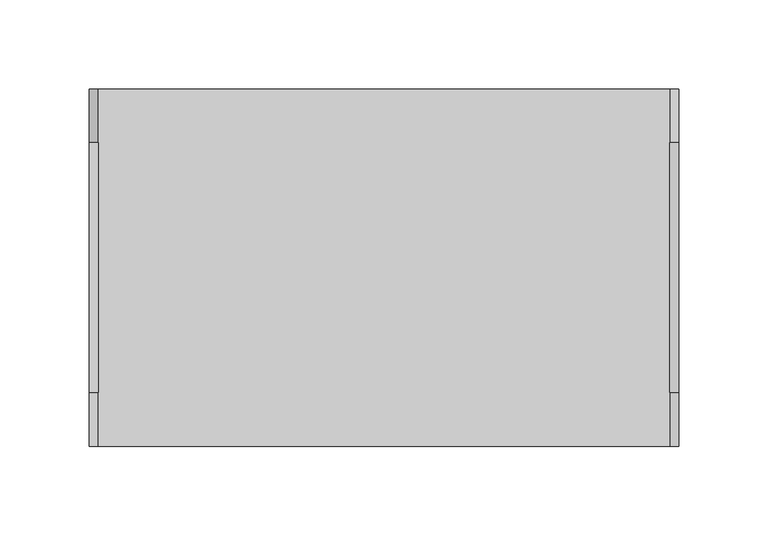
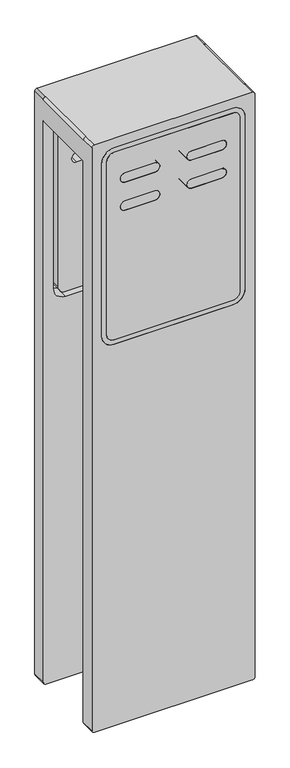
"""IFC4 building model written with IfcOpenShell, lengths in millimetres: proxy geometry, AI_Eqpmt elec_Borne véhicule électrique : Borne simple."""

from ifc_helpers import new_model, si_unit, point, frame, frame_2d, origin, place, context, project, spatial, polyline, circle_curve, trimmed, segment, composite_curve, outline, extrude, source, transform, mapped, element, save
from ifc_brep_helpers import plane_surface, cylinder_surface, revolved_surface, advanced_brep


def electrical_equipment_7e406d96(model_context):
    return source(origin(), model_context, "Body", "SolidModel", [
        advanced_brep(
        [(-145.0, -70.0151337, 1375.0), (-135.0, -70.0151337, 1375.0), (-135.0, -70.0151337, 1380.0), (-120.0, -70.0151337, 1395.0), (120.0, -70.0151337, 1395.0), (135.0, -70.0151337, 1380.0), (135.0, -70.0151337, 1375.0), (145.0, -70.0151337, 1375.0), (145.0, -70.0151337, 1380.0), (120.0, -70.0151337, 1405.0), (-120.0, -70.0151337, 1405.0), (-145.0, -70.0151337, 1380.0), (-135.0, 70.0151337, 1375.0), (-145.0, 70.0151337, 1375.0), (-145.0, 70.0151337, 1380.0), (-120.0, 70.0151337, 1405.0), (120.0, 70.0151337, 1405.0), (145.0, 70.0151337, 1380.0), (145.0, 70.0151337, 1375.0), (135.0, 70.0151337, 1375.0), (135.0, 70.0151337, 1380.0), (120.0, 70.0151337, 1395.0), (-120.0, 70.0151337, 1395.0), (-135.0, 70.0151337, 1380.0), (-160.0, -70.0151337, 1425.0), (-160.0, 70.0151337, 1425.0), (-165.0, 70.0151337, 1420.0), (-165.0, -70.0151337, 1420.0), (-165.0, 100.0, 1420.0), (-165.0, 100.0, 175.0), (-165.0, 70.0151337, 175.0), (-165.0, 70.0151337, 1375.0), (-165.0, -70.0151337, 1375.0), (-165.0, -70.0151337, 175.0), (-165.0, -100.0, 175.0), (-165.0, -100.0, 1420.0), (165.0, 70.0151337, 1375.0), (165.0, -70.0151337, 1375.0), (165.0, 70.0151337, 175.0), (165.0, 100.0, 175.0), (165.0, 100.0, 1420.0), (165.0, 70.0151337, 1420.0), (165.0, -70.0151337, 1420.0), (165.0, -100.0, 1420.0), (165.0, -100.0, 175.0), (165.0, -70.0151337, 175.0), (160.0, 70.0151337, 1425.0), (160.0, -70.0151337, 1425.0), (-160.0, -100.0, 1425.0), (160.0, -100.0, 1425.0), (160.0, 100.0, 1425.0), (-160.0, 100.0, 1425.0), (-160.0, -100.0, 170.0), (160.0, -100.0, 170.0), (120.0, -100.0, 1405.0), (145.0, -100.0, 1380.0), (145.0, -100.0, 1010.0), (120.0, -100.0, 985.0), (-120.0, -100.0, 985.0), (-145.0, -100.0, 1010.0), (-145.0, -100.0, 1380.0), (-120.0, -100.0, 1405.0), (-135.0, -100.0, 1380.0), (-135.0, -100.0, 1010.0), (-120.0, -100.0, 995.0), (120.0, -100.0, 995.0), (135.0, -100.0, 1010.0), (135.0, -100.0, 1380.0), (120.0, -100.0, 1395.0), (-120.0, -100.0, 1395.0), (37.5, -100.0, 1343.75), (97.5, -100.0, 1343.75), (97.5, -100.0, 1323.75), (37.5, -100.0, 1323.75), (-37.5, -100.0, 1343.75), (-37.5, -100.0, 1323.75), (-97.5, -100.0, 1323.75), (-97.5, -100.0, 1343.75), (37.5, -100.0, 1283.75), (97.5, -100.0, 1283.75), (97.5, -100.0, 1263.75), (37.5, -100.0, 1263.75), (-37.5, -100.0, 1283.75), (-37.5, -100.0, 1263.75), (-97.5, -100.0, 1263.75), (-97.5, -100.0, 1283.75), (160.0, -70.0151337, 170.0), (-160.0, -70.0151337, 170.0), (-145.0, -70.0151337, 1010.0), (-120.0, -70.0151337, 985.0), (120.0, -70.0151337, 985.0), (145.0, -70.0151337, 1010.0), (135.0, -70.0151337, 1010.0), (120.0, -70.0151337, 995.0), (-120.0, -70.0151337, 995.0), (-135.0, -70.0151337, 1010.0), (37.5, -70.0151337, 1343.75), (37.5, -70.0151337, 1323.75), (97.5, -70.0151337, 1323.75), (97.5, -70.0151337, 1343.75), (-37.5, -70.0151337, 1343.75), (-97.5, -70.0151337, 1343.75), (-97.5, -70.0151337, 1323.75), (-37.5, -70.0151337, 1323.75), (37.5, -70.0151337, 1283.75), (37.5, -70.0151337, 1263.75), (97.5, -70.0151337, 1263.75), (97.5, -70.0151337, 1283.75), (-37.5, -70.0151337, 1283.75), (-97.5, -70.0151337, 1283.75), (-97.5, -70.0151337, 1263.75), (-37.5, -70.0151337, 1263.75), (160.0, 100.0, 170.0), (-160.0, 100.0, 170.0), (120.0, 100.0, 1405.0), (-120.0, 100.0, 1405.0), (-145.0, 100.0, 1380.0), (-145.0, 100.0, 1010.0), (-120.0, 100.0, 985.0), (120.0, 100.0, 985.0), (145.0, 100.0, 1010.0), (145.0, 100.0, 1380.0), (-135.0, 100.0, 1380.0), (-120.0, 100.0, 1395.0), (120.0, 100.0, 1395.0), (135.0, 100.0, 1380.0), (135.0, 100.0, 1010.0), (120.0, 100.0, 995.0), (-120.0, 100.0, 995.0), (-135.0, 100.0, 1010.0), (-97.5, 100.0, 1323.75), (-37.5, 100.0, 1323.75), (-37.5, 100.0, 1343.75), (-97.5, 100.0, 1343.75), (-97.5, 100.0, 1263.75), (-37.5, 100.0, 1263.75), (-37.5, 100.0, 1283.75), (-97.5, 100.0, 1283.75), (37.5, 100.0, 1323.75), (97.5, 100.0, 1323.75), (97.5, 100.0, 1343.75), (37.5, 100.0, 1343.75), (37.5, 100.0, 1263.75), (97.5, 100.0, 1263.75), (97.5, 100.0, 1283.75), (37.5, 100.0, 1283.75), (-160.0, 70.0151337, 170.0), (160.0, 70.0151337, 170.0), (145.0, 70.0151337, 1010.0), (120.0, 70.0151337, 985.0), (-120.0, 70.0151337, 985.0), (-145.0, 70.0151337, 1010.0), (-135.0, 70.0151337, 1010.0), (-120.0, 70.0151337, 995.0), (120.0, 70.0151337, 995.0), (135.0, 70.0151337, 1010.0), (-97.5, 70.0151337, 1323.75), (-97.5, 70.0151337, 1343.75), (-37.5, 70.0151337, 1343.75), (-37.5, 70.0151337, 1323.75), (-97.5, 70.0151337, 1263.75), (-97.5, 70.0151337, 1283.75), (-37.5, 70.0151337, 1283.75), (-37.5, 70.0151337, 1263.75), (37.5, 70.0151337, 1323.75), (37.5, 70.0151337, 1343.75), (97.5, 70.0151337, 1343.75), (97.5, 70.0151337, 1323.75), (37.5, 70.0151337, 1263.75), (37.5, 70.0151337, 1283.75), (97.5, 70.0151337, 1283.75), (97.5, 70.0151337, 1263.75)],
        [
            (0, 1),
            (1, 2),
            (2, 3, circle_curve(frame((-120.0, -70.0151337, 1380.0), z_axis=(0.0, 1.0, 0.0), x_axis=(1.0, 0.0, 0.0)), 15.0)),
            (3, 4),
            (4, 5, circle_curve(frame((120.0, -70.0151337, 1380.0), z_axis=(0.0, 1.0, 0.0), x_axis=(1.0, 0.0, 0.0)), 15.0)),
            (5, 6),
            (6, 7),
            (7, 8),
            (8, 9, circle_curve(frame((120.0, -70.0151337, 1380.0), z_axis=(0.0, -1.0, 0.0), x_axis=(1.0, 0.0, 0.0)), 25.0)),
            (9, 10),
            (10, 11, circle_curve(frame((-120.0, -70.0151337, 1380.0), z_axis=(0.0, -1.0, 0.0), x_axis=(1.0, 0.0, 0.0)), 25.0)),
            (11, 0),
            (12, 13),
            (13, 14),
            (14, 15, circle_curve(frame((-120.0, 70.0151337, 1380.0), z_axis=(0.0, 1.0, 0.0), x_axis=(1.0, 0.0, 0.0)), 25.0)),
            (15, 16),
            (16, 17, circle_curve(frame((120.0, 70.0151337, 1380.0), z_axis=(0.0, 1.0, 0.0), x_axis=(1.0, 0.0, 0.0)), 25.0)),
            (17, 18),
            (18, 19),
            (19, 20),
            (20, 21, circle_curve(frame((120.0, 70.0151337, 1380.0), z_axis=(0.0, -1.0, 0.0), x_axis=(1.0, 0.0, 0.0)), 15.0)),
            (21, 22),
            (22, 23, circle_curve(frame((-120.0, 70.0151337, 1380.0), z_axis=(0.0, -1.0, 0.0), x_axis=(1.0, 0.0, 0.0)), 15.0)),
            (23, 12),
            (24, 25),
            (25, 26, circle_curve(frame((-160.0, 70.0151337, 1420.0), z_axis=(0.0, -1.0, 0.0), x_axis=(1.0, 0.0, 0.0)), 5.0)),
            (26, 27),
            (27, 24, circle_curve(frame((-160.0, -70.0151337, 1420.0), z_axis=(0.0, 1.0, 0.0), x_axis=(1.0, 0.0, 0.0)), 5.0)),
            (26, 28),
            (28, 29),
            (29, 30),
            (30, 31),
            (31, 32),
            (32, 33),
            (33, 34),
            (34, 35),
            (35, 27),
            (31, 13),
            (12, 19),
            (18, 36),
            (36, 37),
            (37, 7),
            (6, 1),
            (0, 32),
            (36, 38),
            (38, 39),
            (39, 40),
            (40, 41),
            (41, 42),
            (42, 43),
            (43, 44),
            (44, 45),
            (45, 37),
            (41, 46, circle_curve(frame((160.0, 70.0151337, 1420.0), z_axis=(0.0, -1.0, 0.0), x_axis=(1.0, 0.0, 0.0)), 5.0)),
            (46, 47),
            (47, 42, circle_curve(frame((160.0, -70.0151337, 1420.0), z_axis=(0.0, 1.0, 0.0), x_axis=(1.0, 0.0, 0.0)), 5.0)),
            (24, 48),
            (48, 49),
            (49, 47),
            (46, 50),
            (50, 51),
            (51, 25),
            (48, 35, circle_curve(frame((-160.0, -100.0, 1420.0), z_axis=(0.0, -1.0, 0.0), x_axis=(1.0, 0.0, 0.0)), 5.0)),
            (34, 52, circle_curve(frame((-160.0, -100.0, 175.0), z_axis=(0.0, -1.0, 0.0), x_axis=(1.0, 0.0, 0.0)), 5.0)),
            (52, 53),
            (53, 44, circle_curve(frame((160.0, -100.0, 175.0), z_axis=(0.0, -1.0, 0.0), x_axis=(1.0, 0.0, 0.0)), 5.0)),
            (43, 49, circle_curve(frame((160.0, -100.0, 1420.0), z_axis=(0.0, -1.0, 0.0), x_axis=(1.0, 0.0, 0.0)), 5.0)),
            (54, 55, circle_curve(frame((120.0, -100.0, 1380.0), z_axis=(0.0, 1.0, 0.0), x_axis=(1.0, 0.0, 0.0)), 25.0)),
            (55, 56),
            (56, 57, circle_curve(frame((120.0, -100.0, 1010.0), z_axis=(0.0, 1.0, 0.0), x_axis=(1.0, 0.0, 0.0)), 25.0)),
            (57, 58),
            (58, 59, circle_curve(frame((-120.0, -100.0, 1010.0), z_axis=(0.0, 1.0, 0.0), x_axis=(1.0, 0.0, 0.0)), 25.0)),
            (59, 60),
            (60, 61, circle_curve(frame((-120.0, -100.0, 1380.0), z_axis=(0.0, 1.0, 0.0), x_axis=(1.0, 0.0, 0.0)), 25.0)),
            (61, 54),
            (62, 63),
            (63, 64, circle_curve(frame((-120.0, -100.0, 1010.0), z_axis=(0.0, -1.0, 0.0), x_axis=(1.0, 0.0, 0.0)), 15.0)),
            (64, 65),
            (65, 66, circle_curve(frame((120.0, -100.0, 1010.0), z_axis=(0.0, -1.0, 0.0), x_axis=(1.0, 0.0, 0.0)), 15.0)),
            (66, 67),
            (67, 68, circle_curve(frame((120.0, -100.0, 1380.0), z_axis=(0.0, -1.0, 0.0), x_axis=(1.0, 0.0, 0.0)), 15.0)),
            (68, 69),
            (69, 62, circle_curve(frame((-120.0, -100.0, 1380.0), z_axis=(0.0, -1.0, 0.0), x_axis=(1.0, 0.0, 0.0)), 15.0)),
            (70, 71),
            (71, 72, circle_curve(frame((97.5, -100.0, 1333.75), z_axis=(0.0, 1.0, 0.0), x_axis=(1.0, 0.0, 0.0)), 10.0)),
            (72, 73),
            (73, 70, circle_curve(frame((37.5, -100.0, 1333.75), z_axis=(0.0, 1.0, 0.0), x_axis=(1.0, 0.0, 0.0)), 10.0)),
            (74, 75, circle_curve(frame((-37.5, -100.0, 1333.75), z_axis=(0.0, 1.0, 0.0), x_axis=(1.0, 0.0, 0.0)), 10.0)),
            (75, 76),
            (76, 77, circle_curve(frame((-97.5, -100.0, 1333.75), z_axis=(0.0, 1.0, 0.0), x_axis=(1.0, 0.0, 0.0)), 10.0)),
            (77, 74),
            (78, 79),
            (79, 80, circle_curve(frame((97.5, -100.0, 1273.75), z_axis=(0.0, 1.0, 0.0), x_axis=(1.0, 0.0, 0.0)), 10.0)),
            (80, 81),
            (81, 78, circle_curve(frame((37.5, -100.0, 1273.75), z_axis=(0.0, 1.0, 0.0), x_axis=(1.0, 0.0, 0.0)), 10.0)),
            (82, 83, circle_curve(frame((-37.5, -100.0, 1273.75), z_axis=(0.0, 1.0, 0.0), x_axis=(1.0, 0.0, 0.0)), 10.0)),
            (83, 84),
            (84, 85, circle_curve(frame((-97.5, -100.0, 1273.75), z_axis=(0.0, 1.0, 0.0), x_axis=(1.0, 0.0, 0.0)), 10.0)),
            (85, 82),
            (45, 86, circle_curve(frame((160.0, -70.0151337, 175.0), z_axis=(0.0, 1.0, 0.0), x_axis=(1.0, 0.0, 0.0)), 5.0)),
            (86, 87),
            (87, 33, circle_curve(frame((-160.0, -70.0151337, 175.0), z_axis=(0.0, 1.0, 0.0), x_axis=(1.0, 0.0, 0.0)), 5.0)),
            (0, 88),
            (88, 89, circle_curve(frame((-120.0, -70.0151337, 1010.0), z_axis=(0.0, -1.0, 0.0), x_axis=(1.0, 0.0, 0.0)), 25.0)),
            (89, 90),
            (90, 91, circle_curve(frame((120.0, -70.0151337, 1010.0), z_axis=(0.0, -1.0, 0.0), x_axis=(1.0, 0.0, 0.0)), 25.0)),
            (91, 7),
            (92, 93, circle_curve(frame((120.0, -70.0151337, 1010.0), z_axis=(0.0, 1.0, 0.0), x_axis=(1.0, 0.0, 0.0)), 15.0)),
            (93, 94),
            (94, 95, circle_curve(frame((-120.0, -70.0151337, 1010.0), z_axis=(0.0, 1.0, 0.0), x_axis=(1.0, 0.0, 0.0)), 15.0)),
            (95, 1),
            (6, 92),
            (96, 97, circle_curve(frame((37.5, -70.0151337, 1333.75), z_axis=(0.0, -1.0, 0.0), x_axis=(1.0, 0.0, 0.0)), 10.0)),
            (97, 98),
            (98, 99, circle_curve(frame((97.5, -70.0151337, 1333.75), z_axis=(0.0, -1.0, 0.0), x_axis=(1.0, 0.0, 0.0)), 10.0)),
            (99, 96),
            (100, 101),
            (101, 102, circle_curve(frame((-97.5, -70.0151337, 1333.75), z_axis=(0.0, -1.0, 0.0), x_axis=(1.0, 0.0, 0.0)), 10.0)),
            (102, 103),
            (103, 100, circle_curve(frame((-37.5, -70.0151337, 1333.75), z_axis=(0.0, -1.0, 0.0), x_axis=(1.0, 0.0, 0.0)), 10.0)),
            (104, 105, circle_curve(frame((37.5, -70.0151337, 1273.75), z_axis=(0.0, -1.0, 0.0), x_axis=(1.0, 0.0, 0.0)), 10.0)),
            (105, 106),
            (106, 107, circle_curve(frame((97.5, -70.0151337, 1273.75), z_axis=(0.0, -1.0, 0.0), x_axis=(1.0, 0.0, 0.0)), 10.0)),
            (107, 104),
            (108, 109),
            (109, 110, circle_curve(frame((-97.5, -70.0151337, 1273.75), z_axis=(0.0, -1.0, 0.0), x_axis=(1.0, 0.0, 0.0)), 10.0)),
            (110, 111),
            (111, 108, circle_curve(frame((-37.5, -70.0151337, 1273.75), z_axis=(0.0, -1.0, 0.0), x_axis=(1.0, 0.0, 0.0)), 10.0)),
            (87, 52),
            (86, 53),
            (54, 9),
            (8, 55),
            (91, 56),
            (90, 57),
            (89, 58),
            (88, 59),
            (11, 60),
            (10, 61),
            (62, 2),
            (95, 63),
            (94, 64),
            (93, 65),
            (92, 66),
            (5, 67),
            (4, 68),
            (3, 69),
            (50, 40, circle_curve(frame((160.0, 100.0, 1420.0), z_axis=(0.0, 1.0, 0.0), x_axis=(1.0, 0.0, 0.0)), 5.0)),
            (39, 112, circle_curve(frame((160.0, 100.0, 175.0), z_axis=(0.0, 1.0, 0.0), x_axis=(1.0, 0.0, 0.0)), 5.0)),
            (112, 113),
            (113, 29, circle_curve(frame((-160.0, 100.0, 175.0), z_axis=(0.0, 1.0, 0.0), x_axis=(1.0, 0.0, 0.0)), 5.0)),
            (28, 51, circle_curve(frame((-160.0, 100.0, 1420.0), z_axis=(0.0, 1.0, 0.0), x_axis=(1.0, 0.0, 0.0)), 5.0)),
            (114, 115),
            (115, 116, circle_curve(frame((-120.0, 100.0, 1380.0), z_axis=(0.0, -1.0, 0.0), x_axis=(1.0, 0.0, 0.0)), 25.0)),
            (116, 117),
            (117, 118, circle_curve(frame((-120.0, 100.0, 1010.0), z_axis=(0.0, -1.0, 0.0), x_axis=(1.0, 0.0, 0.0)), 25.0)),
            (118, 119),
            (119, 120, circle_curve(frame((120.0, 100.0, 1010.0), z_axis=(0.0, -1.0, 0.0), x_axis=(1.0, 0.0, 0.0)), 25.0)),
            (120, 121),
            (121, 114, circle_curve(frame((120.0, 100.0, 1380.0), z_axis=(0.0, -1.0, 0.0), x_axis=(1.0, 0.0, 0.0)), 25.0)),
            (122, 123, circle_curve(frame((-120.0, 100.0, 1380.0), z_axis=(0.0, 1.0, 0.0), x_axis=(1.0, 0.0, 0.0)), 15.0)),
            (123, 124),
            (124, 125, circle_curve(frame((120.0, 100.0, 1380.0), z_axis=(0.0, 1.0, 0.0), x_axis=(1.0, 0.0, 0.0)), 15.0)),
            (125, 126),
            (126, 127, circle_curve(frame((120.0, 100.0, 1010.0), z_axis=(0.0, 1.0, 0.0), x_axis=(1.0, 0.0, 0.0)), 15.0)),
            (127, 128),
            (128, 129, circle_curve(frame((-120.0, 100.0, 1010.0), z_axis=(0.0, 1.0, 0.0), x_axis=(1.0, 0.0, 0.0)), 15.0)),
            (129, 122),
            (130, 131),
            (131, 132, circle_curve(frame((-37.5, 100.0, 1333.75), z_axis=(0.0, -1.0, 0.0), x_axis=(1.0, 0.0, 0.0)), 10.0)),
            (132, 133),
            (133, 130, circle_curve(frame((-97.5, 100.0, 1333.75), z_axis=(0.0, -1.0, 0.0), x_axis=(1.0, 0.0, 0.0)), 10.0)),
            (134, 135),
            (135, 136, circle_curve(frame((-37.5, 100.0, 1273.75), z_axis=(0.0, -1.0, 0.0), x_axis=(1.0, 0.0, 0.0)), 10.0)),
            (136, 137),
            (137, 134, circle_curve(frame((-97.5, 100.0, 1273.75), z_axis=(0.0, -1.0, 0.0), x_axis=(1.0, 0.0, 0.0)), 10.0)),
            (138, 139),
            (139, 140, circle_curve(frame((97.5, 100.0, 1333.75), z_axis=(0.0, -1.0, 0.0), x_axis=(1.0, 0.0, 0.0)), 10.0)),
            (140, 141),
            (141, 138, circle_curve(frame((37.5, 100.0, 1333.75), z_axis=(0.0, -1.0, 0.0), x_axis=(1.0, 0.0, 0.0)), 10.0)),
            (142, 143),
            (143, 144, circle_curve(frame((97.5, 100.0, 1273.75), z_axis=(0.0, -1.0, 0.0), x_axis=(1.0, 0.0, 0.0)), 10.0)),
            (144, 145),
            (145, 142, circle_curve(frame((37.5, 100.0, 1273.75), z_axis=(0.0, -1.0, 0.0), x_axis=(1.0, 0.0, 0.0)), 10.0)),
            (30, 146, circle_curve(frame((-160.0, 70.0151337, 175.0), z_axis=(0.0, -1.0, 0.0), x_axis=(1.0, 0.0, 0.0)), 5.0)),
            (146, 147),
            (147, 38, circle_curve(frame((160.0, 70.0151337, 175.0), z_axis=(0.0, -1.0, 0.0), x_axis=(1.0, 0.0, 0.0)), 5.0)),
            (18, 148),
            (148, 149, circle_curve(frame((120.0, 70.0151337, 1010.0), z_axis=(0.0, 1.0, 0.0), x_axis=(1.0, 0.0, 0.0)), 25.0)),
            (149, 150),
            (150, 151, circle_curve(frame((-120.0, 70.0151337, 1010.0), z_axis=(0.0, 1.0, 0.0), x_axis=(1.0, 0.0, 0.0)), 25.0)),
            (151, 13),
            (152, 153, circle_curve(frame((-120.0, 70.0151337, 1010.0), z_axis=(0.0, -1.0, 0.0), x_axis=(1.0, 0.0, 0.0)), 15.0)),
            (153, 154),
            (154, 155, circle_curve(frame((120.0, 70.0151337, 1010.0), z_axis=(0.0, -1.0, 0.0), x_axis=(1.0, 0.0, 0.0)), 15.0)),
            (155, 19),
            (12, 152),
            (156, 157, circle_curve(frame((-97.5, 70.0151337, 1333.75), z_axis=(0.0, 1.0, 0.0), x_axis=(1.0, 0.0, 0.0)), 10.0)),
            (157, 158),
            (158, 159, circle_curve(frame((-37.5, 70.0151337, 1333.75), z_axis=(0.0, 1.0, 0.0), x_axis=(1.0, 0.0, 0.0)), 10.0)),
            (159, 156),
            (160, 161, circle_curve(frame((-97.5, 70.0151337, 1273.75), z_axis=(0.0, 1.0, 0.0), x_axis=(1.0, 0.0, 0.0)), 10.0)),
            (161, 162),
            (162, 163, circle_curve(frame((-37.5, 70.0151337, 1273.75), z_axis=(0.0, 1.0, 0.0), x_axis=(1.0, 0.0, 0.0)), 10.0)),
            (163, 160),
            (164, 165, circle_curve(frame((37.5, 70.0151337, 1333.75), z_axis=(0.0, 1.0, 0.0), x_axis=(1.0, 0.0, 0.0)), 10.0)),
            (165, 166),
            (166, 167, circle_curve(frame((97.5, 70.0151337, 1333.75), z_axis=(0.0, 1.0, 0.0), x_axis=(1.0, 0.0, 0.0)), 10.0)),
            (167, 164),
            (168, 169, circle_curve(frame((37.5, 70.0151337, 1273.75), z_axis=(0.0, 1.0, 0.0), x_axis=(1.0, 0.0, 0.0)), 10.0)),
            (169, 170),
            (170, 171, circle_curve(frame((97.5, 70.0151337, 1273.75), z_axis=(0.0, 1.0, 0.0), x_axis=(1.0, 0.0, 0.0)), 10.0)),
            (171, 168),
            (113, 146),
            (112, 147),
            (121, 17),
            (16, 114),
            (120, 148),
            (119, 149),
            (118, 150),
            (117, 151),
            (116, 14),
            (115, 15),
            (129, 152),
            (23, 122),
            (128, 153),
            (127, 154),
            (126, 155),
            (125, 20),
            (124, 21),
            (123, 22),
            (70, 96),
            (99, 71),
            (98, 72),
            (97, 73),
            (74, 100),
            (103, 75),
            (102, 76),
            (101, 77),
            (78, 104),
            (107, 79),
            (106, 80),
            (105, 81),
            (82, 108),
            (111, 83),
            (110, 84),
            (109, 85),
            (130, 156),
            (159, 131),
            (158, 132),
            (157, 133),
            (134, 160),
            (163, 135),
            (162, 136),
            (161, 137),
            (138, 164),
            (167, 139),
            (166, 140),
            (165, 141),
            (142, 168),
            (171, 143),
            (170, 144),
            (169, 145),
        ],
        [
            plane_surface(frame((-155.0, -70.0151337, 1420.0), z_axis=(0.0, -1.0, 0.0), x_axis=(0.0, 0.0, 1.0))),
            plane_surface(frame((-155.0, 70.0151337, 1420.0), z_axis=(0.0, 1.0, 0.0), x_axis=(0.0, 0.0, -1.0))),
            cylinder_surface(frame((-160.0, 70.0151337, 1420.0), z_axis=(0.0, -1.0, 0.0), x_axis=(1.0, 0.0, 0.0)), 5.0),
            plane_surface(frame((-165.0, -70.0151337, 1420.0), z_axis=(-1.0, 0.0, 0.0), x_axis=(0.0, 1.0, 0.0))),
            plane_surface(frame((-165.0, -70.0151337, 1375.0), z_axis=(0.0, 0.0, -1.0), x_axis=(0.0, 1.0, 0.0))),
            plane_surface(frame((165.0, -70.0151337, 1375.0), z_axis=(1.0, 0.0, 0.0), x_axis=(0.0, 1.0, 0.0))),
            cylinder_surface(frame((160.0, 70.0151337, 1420.0), z_axis=(0.0, -1.0, 0.0), x_axis=(1.0, 0.0, 0.0)), 5.0),
            plane_surface(frame((160.0, -70.0151337, 1425.0), z_axis=(0.0, 0.0, 1.0), x_axis=(0.0, 1.0, 0.0))),
            plane_surface(frame((-160.0, -100.0, 1425.0), z_axis=(0.0, -1.0, 0.0), x_axis=(-1.0, 0.0, 0.0))),
            plane_surface(frame((-160.0, -70.0151337, 1425.0), z_axis=(0.0, 1.0, 0.0), x_axis=(1.0, 0.0, 0.0))),
            cylinder_surface(frame((-160.0, -70.0151337, 1420.0), z_axis=(0.0, -1.0, 0.0), x_axis=(1.0, 0.0, 0.0)), 5.0),
            cylinder_surface(frame((-160.0, -70.0151337, 175.0), z_axis=(0.0, -1.0, 0.0), x_axis=(1.0, 0.0, 0.0)), 5.0),
            plane_surface(frame((-160.0, -100.0, 170.0), z_axis=(0.0, 0.0, -1.0), x_axis=(0.0, 1.0, 0.0))),
            cylinder_surface(frame((160.0, -70.0151337, 175.0), z_axis=(0.0, -1.0, 0.0), x_axis=(1.0, 0.0, 0.0)), 5.0),
            cylinder_surface(frame((160.0, -70.0151337, 1420.0), z_axis=(0.0, -1.0, 0.0), x_axis=(1.0, 0.0, 0.0)), 5.0),
            revolved_surface(polyline([(145.0, -70.0151337, 1380.0), (145.0, -100.0, 1380.0)]), (120.0, 0.0, 1380.0), (0.0, 1.0, 0.0)),
            plane_surface(frame((145.0, -100.0, 1380.0), z_axis=(-1.0, 0.0, 0.0), x_axis=(0.0, 1.0, 0.0))),
            revolved_surface(polyline([(145.0, -70.0151337, 1010.0), (145.0, -100.0, 1010.0)]), (120.0, 0.0, 1010.0), (0.0, 1.0, 0.0)),
            plane_surface(frame((120.0, -100.0, 985.0), z_axis=(0.0, 0.0, 1.0), x_axis=(0.0, 1.0, 0.0))),
            revolved_surface(polyline([(-95.0, -70.0151337, 1010.0), (-95.0, -100.0, 1010.0)]), (-120.0, 0.0, 1010.0), (0.0, 1.0, 0.0)),
            plane_surface(frame((-145.0, -100.0, 1010.0), z_axis=(1.0, 0.0, 0.0), x_axis=(0.0, 1.0, 0.0))),
            revolved_surface(polyline([(-95.0, -70.0151337, 1380.0), (-95.0, -100.0, 1380.0)]), (-120.0, 0.0, 1380.0), (0.0, 1.0, 0.0)),
            plane_surface(frame((-120.0, -100.0, 1405.0), z_axis=(0.0, 0.0, -1.0), x_axis=(0.0, 1.0, 0.0))),
            plane_surface(frame((-135.0, -100.0, 1380.0), z_axis=(-1.0, 0.0, 0.0), x_axis=(0.0, 1.0, 0.0))),
            cylinder_surface(frame((-120.0, 0.0, 1010.0), z_axis=(0.0, -1.0, 0.0), x_axis=(1.0, 0.0, 0.0)), 15.0),
            plane_surface(frame((-120.0, -100.0, 995.0), z_axis=(0.0, 0.0, -1.0), x_axis=(0.0, 1.0, 0.0))),
            cylinder_surface(frame((120.0, 0.0, 1010.0), z_axis=(0.0, -1.0, 0.0), x_axis=(1.0, 0.0, 0.0)), 15.0),
            plane_surface(frame((135.0, -100.0, 1010.0), z_axis=(1.0, 0.0, 0.0), x_axis=(0.0, 1.0, 0.0))),
            cylinder_surface(frame((120.0, 0.0, 1380.0), z_axis=(0.0, -1.0, 0.0), x_axis=(1.0, 0.0, 0.0)), 15.0),
            plane_surface(frame((120.0, -100.0, 1395.0), z_axis=(0.0, 0.0, 1.0), x_axis=(0.0, 1.0, 0.0))),
            cylinder_surface(frame((-120.0, 0.0, 1380.0), z_axis=(0.0, -1.0, 0.0), x_axis=(1.0, 0.0, 0.0)), 15.0),
            plane_surface(frame((165.0, 100.0, 1420.0), z_axis=(0.0, 1.0, 0.0), x_axis=(0.0, 0.0, -1.0))),
            plane_surface(frame((165.0, 70.0151337, 1420.0), z_axis=(0.0, -1.0, 0.0), x_axis=(0.0, 0.0, 1.0))),
            cylinder_surface(frame((-160.0, 70.0151337, 1420.0), z_axis=(0.0, 1.0, 0.0), x_axis=(1.0, 0.0, 0.0)), 5.0),
            cylinder_surface(frame((-160.0, 70.0151337, 175.0), z_axis=(0.0, 1.0, 0.0), x_axis=(1.0, 0.0, 0.0)), 5.0),
            plane_surface(frame((160.0, 100.0, 170.0), z_axis=(0.0, 0.0, -1.0), x_axis=(0.0, -1.0, 0.0))),
            cylinder_surface(frame((160.0, 70.0151337, 175.0), z_axis=(0.0, 1.0, 0.0), x_axis=(1.0, 0.0, 0.0)), 5.0),
            cylinder_surface(frame((160.0, 70.0151337, 1420.0), z_axis=(0.0, 1.0, 0.0), x_axis=(1.0, 0.0, 0.0)), 5.0),
            revolved_surface(polyline([(145.0, 70.0151337, 1380.0), (145.0, 100.0, 1380.0)]), (120.0, 0.0, 1380.0), (0.0, -1.0, 0.0)),
            plane_surface(frame((145.0, 100.0, 1010.0), z_axis=(-1.0, 0.0, 0.0), x_axis=(0.0, -1.0, 0.0))),
            revolved_surface(polyline([(145.0, 70.0151337, 1010.0), (145.0, 100.0, 1010.0)]), (120.0, 0.0, 1010.0), (0.0, -1.0, 0.0)),
            plane_surface(frame((-120.0, 100.0, 985.0), z_axis=(0.0, 0.0, 1.0), x_axis=(0.0, -1.0, 0.0))),
            revolved_surface(polyline([(-95.0, 70.0151337, 1010.0), (-95.0, 100.0, 1010.0)]), (-120.0, 0.0, 1010.0), (0.0, -1.0, 0.0)),
            plane_surface(frame((-145.0, 100.0, 1380.0), z_axis=(1.0, 0.0, 0.0), x_axis=(0.0, -1.0, 0.0))),
            revolved_surface(polyline([(-95.0, 70.0151337, 1380.0), (-95.0, 100.0, 1380.0)]), (-120.0, 0.0, 1380.0), (0.0, -1.0, 0.0)),
            plane_surface(frame((120.0, 100.0, 1405.0), z_axis=(0.0, 0.0, -1.0), x_axis=(0.0, -1.0, 0.0))),
            plane_surface(frame((-135.0, 100.0, 1010.0), z_axis=(-1.0, 0.0, 0.0), x_axis=(0.0, -1.0, 0.0))),
            cylinder_surface(frame((-120.0, 0.0, 1010.0), z_axis=(0.0, 1.0, 0.0), x_axis=(1.0, 0.0, 0.0)), 15.0),
            plane_surface(frame((120.0, 100.0, 995.0), z_axis=(0.0, 0.0, -1.0), x_axis=(0.0, -1.0, 0.0))),
            cylinder_surface(frame((120.0, 0.0, 1010.0), z_axis=(0.0, 1.0, 0.0), x_axis=(1.0, 0.0, 0.0)), 15.0),
            plane_surface(frame((135.0, 100.0, 1380.0), z_axis=(1.0, 0.0, 0.0), x_axis=(0.0, -1.0, 0.0))),
            cylinder_surface(frame((120.0, 0.0, 1380.0), z_axis=(0.0, 1.0, 0.0), x_axis=(1.0, 0.0, 0.0)), 15.0),
            plane_surface(frame((-120.0, 100.0, 1395.0), z_axis=(0.0, 0.0, 1.0), x_axis=(0.0, -1.0, 0.0))),
            cylinder_surface(frame((-120.0, 0.0, 1380.0), z_axis=(0.0, 1.0, 0.0), x_axis=(1.0, 0.0, 0.0)), 15.0),
            plane_surface(frame((37.5, -100.0, 1343.75), z_axis=(0.0, 0.0, -1.0), x_axis=(0.0, 1.0, 0.0))),
            revolved_surface(polyline([(107.5, -70.0151337, 1333.75), (107.5, -100.0, 1333.75)]), (97.5, 0.0, 1333.75), (0.0, 1.0, 0.0)),
            plane_surface(frame((97.5, -100.0, 1323.75), z_axis=(0.0, 0.0, 1.0), x_axis=(0.0, 1.0, 0.0))),
            revolved_surface(polyline([(47.5, -70.0151337, 1333.75), (47.5, -100.0, 1333.75)]), (37.5, 0.0, 1333.75), (0.0, 1.0, 0.0)),
            revolved_surface(polyline([(-27.5, -70.0151337, 1333.75), (-27.5, -100.0, 1333.75)]), (-37.5, 0.0, 1333.75), (0.0, 1.0, 0.0)),
            plane_surface(frame((-37.5, -100.0, 1323.75), z_axis=(0.0, 0.0, 1.0), x_axis=(0.0, 1.0, 0.0))),
            revolved_surface(polyline([(-87.5, -70.0151337, 1333.75), (-87.5, -100.0, 1333.75)]), (-97.5, 0.0, 1333.75), (0.0, 1.0, 0.0)),
            plane_surface(frame((-97.5, -100.0, 1343.75), z_axis=(0.0, 0.0, -1.0), x_axis=(0.0, 1.0, 0.0))),
            plane_surface(frame((37.5, -100.0, 1283.75), z_axis=(0.0, 0.0, -1.0), x_axis=(0.0, 1.0, 0.0))),
            revolved_surface(polyline([(107.5, -70.0151337, 1273.75), (107.5, -100.0, 1273.75)]), (97.5, 0.0, 1273.75), (0.0, 1.0, 0.0)),
            plane_surface(frame((97.5, -100.0, 1263.75), z_axis=(0.0, 0.0, 1.0), x_axis=(0.0, 1.0, 0.0))),
            revolved_surface(polyline([(47.5, -70.0151337, 1273.75), (47.5, -100.0, 1273.75)]), (37.5, 0.0, 1273.75), (0.0, 1.0, 0.0)),
            revolved_surface(polyline([(-27.5, -70.0151337, 1273.75), (-27.5, -100.0, 1273.75)]), (-37.5, 0.0, 1273.75), (0.0, 1.0, 0.0)),
            plane_surface(frame((-37.5, -100.0, 1263.75), z_axis=(0.0, 0.0, 1.0), x_axis=(0.0, 1.0, 0.0))),
            revolved_surface(polyline([(-87.5, -70.0151337, 1273.75), (-87.5, -100.0, 1273.75)]), (-97.5, 0.0, 1273.75), (0.0, 1.0, 0.0)),
            plane_surface(frame((-97.5, -100.0, 1283.75), z_axis=(0.0, 0.0, -1.0), x_axis=(0.0, 1.0, 0.0))),
            plane_surface(frame((-97.5, 100.0, 1323.75), z_axis=(0.0, 0.0, 1.0), x_axis=(0.0, -1.0, 0.0))),
            revolved_surface(polyline([(-27.5, 70.0151337, 1333.75), (-27.5, 100.0, 1333.75)]), (-37.5, 0.0, 1333.75), (0.0, -1.0, 0.0)),
            plane_surface(frame((-37.5, 100.0, 1343.75), z_axis=(0.0, 0.0, -1.0), x_axis=(0.0, -1.0, 0.0))),
            revolved_surface(polyline([(-87.5, 70.0151337, 1333.75), (-87.5, 100.0, 1333.75)]), (-97.5, 0.0, 1333.75), (0.0, -1.0, 0.0)),
            plane_surface(frame((-97.5, 100.0, 1263.75), z_axis=(0.0, 0.0, 1.0), x_axis=(0.0, -1.0, 0.0))),
            revolved_surface(polyline([(-27.5, 70.0151337, 1273.75), (-27.5, 100.0, 1273.75)]), (-37.5, 0.0, 1273.75), (0.0, -1.0, 0.0)),
            plane_surface(frame((-37.5, 100.0, 1283.75), z_axis=(0.0, 0.0, -1.0), x_axis=(0.0, -1.0, 0.0))),
            revolved_surface(polyline([(-87.5, 70.0151337, 1273.75), (-87.5, 100.0, 1273.75)]), (-97.5, 0.0, 1273.75), (0.0, -1.0, 0.0)),
            plane_surface(frame((37.5, 100.0, 1323.75), z_axis=(0.0, 0.0, 1.0), x_axis=(0.0, -1.0, 0.0))),
            revolved_surface(polyline([(107.5, 70.0151337, 1333.75), (107.5, 100.0, 1333.75)]), (97.5, 0.0, 1333.75), (0.0, -1.0, 0.0)),
            plane_surface(frame((97.5, 100.0, 1343.75), z_axis=(0.0, 0.0, -1.0), x_axis=(0.0, -1.0, 0.0))),
            revolved_surface(polyline([(47.5, 70.0151337, 1333.75), (47.5, 100.0, 1333.75)]), (37.5, 0.0, 1333.75), (0.0, -1.0, 0.0)),
            plane_surface(frame((37.5, 100.0, 1263.75), z_axis=(0.0, 0.0, 1.0), x_axis=(0.0, -1.0, 0.0))),
            revolved_surface(polyline([(107.5, 70.0151337, 1273.75), (107.5, 100.0, 1273.75)]), (97.5, 0.0, 1273.75), (0.0, -1.0, 0.0)),
            plane_surface(frame((97.5, 100.0, 1283.75), z_axis=(0.0, 0.0, -1.0), x_axis=(0.0, -1.0, 0.0))),
            revolved_surface(polyline([(47.5, 70.0151337, 1273.75), (47.5, 100.0, 1273.75)]), (37.5, 0.0, 1273.75), (0.0, -1.0, 0.0)),
        ],
        [
            (0, [[1, 2, 3, 4, 5, 6, 7, 8, 9, 10, 11, 12]]),
            (1, [[13, 14, 15, 16, 17, 18, 19, 20, 21, 22, 23, 24]]),
            (2, [[25, 26, 27, 28]]),
            (3, [[-27, 29, 30, 31, 32, 33, 34, 35, 36, 37]]),
            (4, [[-33, 38, -13, 39, -19, 40, 41, 42, -7, 43, -1, 44]]),
            (5, [[-41, 45, 46, 47, 48, 49, 50, 51, 52, 53]]),
            (6, [[-49, 54, 55, 56]]),
            (7, [[-25, 57, 58, 59, -55, 60, 61, 62]]),
            (8, [[-58, 63, -36, 64, 65, 66, -51, 67], [68, 69, 70, 71, 72, 73, 74, 75]]),
            (8, [[76, 77, 78, 79, 80, 81, 82, 83], [84, 85, 86, 87], [88, 89, 90, 91], [92, 93, 94, 95], [96, 97, 98, 99]]),
            (9, [[100, 101, 102, -34, -44, 103, 104, 105, 106, 107, -42, -53]]),
            (9, [[108, 109, 110, 111, -43, 112], [113, 114, 115, 116], [117, 118, 119, 120], [121, 122, 123, 124], [125, 126, 127, 128]]),
            (10, [[-63, -57, -28, -37]]),
            (11, [[-64, -35, -102, 129]]),
            (12, [[-65, -129, -101, 130]]),
            (13, [[-66, -130, -100, -52]]),
            (14, [[-67, -50, -56, -59]]),
            (15, [[-68, 131, -9, 132]]),
            (16, [[-69, -132, -8, -107, 133]]),
            (17, [[-70, -133, -106, 134]]),
            (18, [[-71, -134, -105, 135]]),
            (19, [[-72, -135, -104, 136]]),
            (20, [[-73, -136, -103, -12, 137]]),
            (21, [[-74, -137, -11, 138]]),
            (22, [[-75, -138, -10, -131]]),
            (23, [[-76, 139, -2, -111, 140]]),
            (24, [[-77, -140, -110, 141]]),
            (25, [[-78, -141, -109, 142]]),
            (26, [[-79, -142, -108, 143]]),
            (27, [[-80, -143, -112, -6, 144]]),
            (28, [[-81, -144, -5, 145]]),
            (29, [[-82, -145, -4, 146]]),
            (30, [[-83, -146, -3, -139]]),
            (31, [[147, -47, 148, 149, 150, -30, 151, -61], [152, 153, 154, 155, 156, 157, 158, 159]]),
            (31, [[160, 161, 162, 163, 164, 165, 166, 167], [168, 169, 170, 171], [172, 173, 174, 175], [176, 177, 178, 179], [180, 181, 182, 183]]),
            (32, [[184, 185, 186, -45, -40, 187, 188, 189, 190, 191, -38, -32]]),
            (32, [[192, 193, 194, 195, -39, 196], [197, 198, 199, 200], [201, 202, 203, 204], [205, 206, 207, 208], [209, 210, 211, 212]]),
            (33, [[-151, -29, -26, -62]]),
            (34, [[-150, 213, -184, -31]]),
            (35, [[-149, 214, -185, -213]]),
            (36, [[-148, -46, -186, -214]]),
            (37, [[-147, -60, -54, -48]]),
            (38, [[-159, 215, -17, 216]]),
            (39, [[-158, 217, -187, -18, -215]]),
            (40, [[-157, 218, -188, -217]]),
            (41, [[-156, 219, -189, -218]]),
            (42, [[-155, 220, -190, -219]]),
            (43, [[-154, 221, -14, -191, -220]]),
            (44, [[-153, 222, -15, -221]]),
            (45, [[-152, -216, -16, -222]]),
            (46, [[-167, 223, -196, -24, 224]]),
            (47, [[-166, 225, -192, -223]]),
            (48, [[-165, 226, -193, -225]]),
            (49, [[-164, 227, -194, -226]]),
            (50, [[-163, 228, -20, -195, -227]]),
            (51, [[-162, 229, -21, -228]]),
            (52, [[-161, 230, -22, -229]]),
            (53, [[-160, -224, -23, -230]]),
            (54, [[-84, 231, -116, 232]]),
            (55, [[-85, -232, -115, 233]]),
            (56, [[-86, -233, -114, 234]]),
            (57, [[-87, -234, -113, -231]]),
            (58, [[-88, 235, -120, 236]]),
            (59, [[-89, -236, -119, 237]]),
            (60, [[-90, -237, -118, 238]]),
            (61, [[-91, -238, -117, -235]]),
            (62, [[-92, 239, -124, 240]]),
            (63, [[-93, -240, -123, 241]]),
            (64, [[-94, -241, -122, 242]]),
            (65, [[-95, -242, -121, -239]]),
            (66, [[-96, 243, -128, 244]]),
            (67, [[-97, -244, -127, 245]]),
            (68, [[-98, -245, -126, 246]]),
            (69, [[-99, -246, -125, -243]]),
            (70, [[-168, 247, -200, 248]]),
            (71, [[-169, -248, -199, 249]]),
            (72, [[-170, -249, -198, 250]]),
            (73, [[-171, -250, -197, -247]]),
            (74, [[-172, 251, -204, 252]]),
            (75, [[-173, -252, -203, 253]]),
            (76, [[-174, -253, -202, 254]]),
            (77, [[-175, -254, -201, -251]]),
            (78, [[-176, 255, -208, 256]]),
            (79, [[-177, -256, -207, 257]]),
            (80, [[-178, -257, -206, 258]]),
            (81, [[-179, -258, -205, -255]]),
            (82, [[-180, 259, -212, 260]]),
            (83, [[-181, -260, -211, 261]]),
            (84, [[-182, -261, -210, 262]]),
            (85, [[-183, -262, -209, -259]]),
        ],
    ),
        extrude(outline(composite_curve([segment(trimmed(circle_curve(frame_2d((1333.75, -97.5)), 10.0), [point((1343.75, -97.5))], [point((1323.75, -97.5))], False, "CARTESIAN"), True, "CONTINUOUS"), segment(polyline([(1323.75, -97.5), (1323.75, -37.5)]), True, "CONTINUOUS"), segment(trimmed(circle_curve(frame_2d((1333.75, -37.5)), 10.0), [point((1323.75, -37.5))], [point((1343.75, -37.5))], False, "CARTESIAN"), True, "CONTINUOUS"), segment(polyline([(1343.75, -37.5), (1343.75, -97.5)]), True, "CONTINUOUS")], self_intersect=False)), frame((0.0, -100.0, 0.0), z_axis=(0.0, 1.0, 0.0), x_axis=(0.0, 0.0, 1.0)), (0.0, 0.0, 1.0), 29.9848663),
        extrude(outline(composite_curve([segment(trimmed(circle_curve(frame_2d((1273.75, -97.5)), 10.0), [point((1283.75, -97.5))], [point((1263.75, -97.5))], False, "CARTESIAN"), True, "CONTINUOUS"), segment(polyline([(1263.75, -97.5), (1263.75, -37.5)]), True, "CONTINUOUS"), segment(trimmed(circle_curve(frame_2d((1273.75, -37.5)), 10.0), [point((1263.75, -37.5))], [point((1283.75, -37.5))], False, "CARTESIAN"), True, "CONTINUOUS"), segment(polyline([(1283.75, -37.5), (1283.75, -97.5)]), True, "CONTINUOUS")], self_intersect=False)), frame((0.0, -100.0, 0.0), z_axis=(0.0, 1.0, 0.0), x_axis=(0.0, 0.0, 1.0)), (0.0, 0.0, 1.0), 29.9848663),
        extrude(outline(composite_curve([segment(trimmed(circle_curve(frame_2d((1273.75, 37.5)), 10.0), [point((1283.75, 37.5))], [point((1263.75, 37.5))], False, "CARTESIAN"), True, "CONTINUOUS"), segment(polyline([(1263.75, 37.5), (1263.75, 97.5)]), True, "CONTINUOUS"), segment(trimmed(circle_curve(frame_2d((1273.75, 97.5)), 10.0), [point((1263.75, 97.5))], [point((1283.75, 97.5))], False, "CARTESIAN"), True, "CONTINUOUS"), segment(polyline([(1283.75, 97.5), (1283.75, 37.5)]), True, "CONTINUOUS")], self_intersect=False)), frame((0.0, -100.0, 0.0), z_axis=(0.0, 1.0, 0.0), x_axis=(0.0, 0.0, 1.0)), (0.0, 0.0, 1.0), 29.9848663),
        extrude(outline(composite_curve([segment(trimmed(circle_curve(frame_2d((1333.75, 37.5)), 10.0), [point((1343.75, 37.5))], [point((1323.75, 37.5))], False, "CARTESIAN"), True, "CONTINUOUS"), segment(polyline([(1323.75, 37.5), (1323.75, 97.5)]), True, "CONTINUOUS"), segment(trimmed(circle_curve(frame_2d((1333.75, 97.5)), 10.0), [point((1323.75, 97.5))], [point((1343.75, 97.5))], False, "CARTESIAN"), True, "CONTINUOUS"), segment(polyline([(1343.75, 97.5), (1343.75, 37.5)]), True, "CONTINUOUS")], self_intersect=False)), frame((0.0, -100.0, 0.0), z_axis=(0.0, 1.0, 0.0), x_axis=(0.0, 0.0, 1.0)), (0.0, 0.0, 1.0), 29.9848663),
        extrude(outline(composite_curve([segment(polyline([(1405.0, 120.0), (1405.0, -120.0)]), True, "CONTINUOUS"), segment(trimmed(circle_curve(frame_2d((1380.0, -120.0)), 25.0), [point((1405.0, -120.0))], [point((1380.0, -145.0))], False, "CARTESIAN"), True, "CONTINUOUS"), segment(polyline([(1380.0, -145.0), (1010.0, -145.0)]), True, "CONTINUOUS"), segment(trimmed(circle_curve(frame_2d((1010.0, -120.0)), 25.0), [point((1010.0, -145.0))], [point((985.0, -120.0))], False, "CARTESIAN"), True, "CONTINUOUS"), segment(polyline([(985.0, -120.0), (985.0, 120.0)]), True, "CONTINUOUS"), segment(trimmed(circle_curve(frame_2d((1010.0, 120.0)), 25.0), [point((985.0, 120.0))], [point((1010.0, 145.0))], False, "CARTESIAN"), True, "CONTINUOUS"), segment(polyline([(1010.0, 145.0), (1380.0, 145.0)]), True, "CONTINUOUS"), segment(trimmed(circle_curve(frame_2d((1380.0, 120.0)), 25.0), [point((1380.0, 145.0))], [point((1405.0, 120.0))], False, "CARTESIAN"), True, "CONTINUOUS")], self_intersect=False), holes=[composite_curve([segment(trimmed(circle_curve(frame_2d((1380.0, -120.0)), 15.0), [point((1380.0, -135.0))], [point((1395.0, -120.0))], True, "CARTESIAN"), True, "CONTINUOUS"), segment(polyline([(1395.0, -120.0), (1395.0, 120.0)]), True, "CONTINUOUS"), segment(trimmed(circle_curve(frame_2d((1380.0, 120.0)), 15.0), [point((1395.0, 120.0))], [point((1380.0, 135.0))], True, "CARTESIAN"), True, "CONTINUOUS"), segment(polyline([(1380.0, 135.0), (1010.0, 135.0)]), True, "CONTINUOUS"), segment(trimmed(circle_curve(frame_2d((1010.0, 120.0)), 15.0), [point((1010.0, 135.0))], [point((995.0, 120.0))], True, "CARTESIAN"), True, "CONTINUOUS"), segment(polyline([(995.0, 120.0), (995.0, -120.0)]), True, "CONTINUOUS"), segment(trimmed(circle_curve(frame_2d((1010.0, -120.0)), 15.0), [point((995.0, -120.0))], [point((1010.0, -135.0))], True, "CARTESIAN"), True, "CONTINUOUS"), segment(polyline([(1010.0, -135.0), (1380.0, -135.0)]), True, "CONTINUOUS")], self_intersect=False)]), frame((0.0, -100.0, 0.0), z_axis=(0.0, 1.0, 0.0), x_axis=(0.0, 0.0, 1.0)), (0.0, 0.0, 1.0), 29.9848663),
    ])


if __name__ == "__main__":
    model = new_model("IFC4")
    model_context = context("Model", 3, world=origin())
    ifc_project = project(units=[si_unit("LENGTHUNIT", "METRE", prefix="MILLI")], contexts=[model_context])
    site = spatial("IfcSite", under=ifc_project)
    building = spatial("IfcBuilding", under=site)
    placement = place(None, origin())
    electrical_equipment_shape = electrical_equipment_7e406d96(model_context)
    element("IfcBuildingElementProxy", 1, Name="AI_Eqpmt elec_Borne véhicule électrique : Borne simple", ObjectType="AI_Eqpmt elec_Borne véhicule électrique : Borne simple", at=placement, inside=building, context=model_context, shape_type="MappedRepresentation", body=[
        mapped(electrical_equipment_shape, transform((0.0, 0.0, 0.0), x_axis=(1.0, 0.0, 0.0), y_axis=(0.0, 1.0, 0.0), z_axis=(0.0, 0.0, 1.0))),
    ])
    save(model, "model.ifc")
